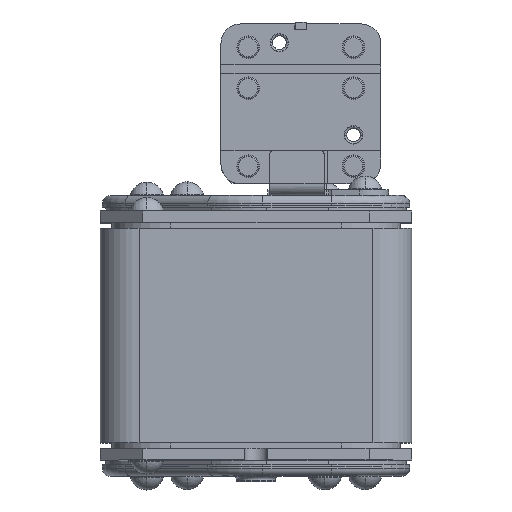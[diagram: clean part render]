
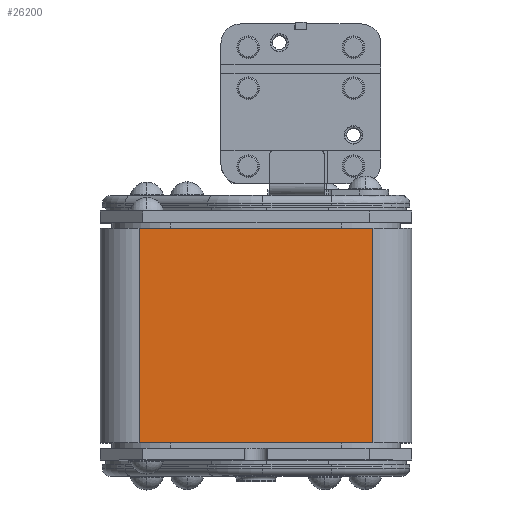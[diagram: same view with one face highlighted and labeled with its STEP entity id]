
A CAD part, top view. The second image highlights one B-rep face of the part: STEP entity #26200.
In plain terms, the highlighted planar face has unit normal (0, 0, 1).
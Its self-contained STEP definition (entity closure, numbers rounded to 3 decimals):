
#245 = AXIS2_PLACEMENT_3D ( 'NONE', #24988, #6865, #28010 ) ;
#767 = EDGE_CURVE ( 'NONE', #36830, #34968, #6697, .T. ) ;
#1786 = CARTESIAN_POINT ( 'NONE',  ( -30., -27.5, 40. ) ) ;
#2735 = ORIENTED_EDGE ( 'NONE', *, *, #767, .F. ) ;
#4666 = CARTESIAN_POINT ( 'NONE',  ( -30., 27.5, 40. ) ) ;
#5118 = DIRECTION ( 'NONE',  ( 0., -1., 0. ) ) ;
#6697 = LINE ( 'NONE', #30908, #12818 ) ;
#6865 = DIRECTION ( 'NONE',  ( 0., 0., -1. ) ) ;
#7473 = CARTESIAN_POINT ( 'NONE',  ( -30., -27.5, 40. ) ) ;
#9761 = PLANE ( 'NONE',  #245 ) ;
#12378 = LINE ( 'NONE', #29037, #18562 ) ;
#12818 = VECTOR ( 'NONE', #27940, 1000. ) ;
#15286 = EDGE_CURVE ( 'NONE', #34968, #28792, #19618, .T. ) ;
#15775 = EDGE_CURVE ( 'NONE', #36830, #39126, #12378, .T. ) ;
#16452 = ORIENTED_EDGE ( 'NONE', *, *, #22930, .T. ) ;
#16603 = DIRECTION ( 'NONE',  ( 0., -1., 0. ) ) ;
#18073 = VECTOR ( 'NONE', #26160, 1000. ) ;
#18562 = VECTOR ( 'NONE', #16603, 1000. ) ;
#19296 = CARTESIAN_POINT ( 'NONE',  ( 30., 27.5, 40. ) ) ;
#19618 = LINE ( 'NONE', #31667, #26720 ) ;
#19928 = LINE ( 'NONE', #1786, #18073 ) ;
#22930 = EDGE_CURVE ( 'NONE', #39126, #28792, #19928, .T. ) ;
#24988 = CARTESIAN_POINT ( 'NONE',  ( -30., 27.5, 40. ) ) ;
#26160 = DIRECTION ( 'NONE',  ( 1., 0., 0. ) ) ;
#26200 = ADVANCED_FACE ( 'NONE', ( #38709 ), #9761, .F. ) ;
#26720 = VECTOR ( 'NONE', #5118, 1000. ) ;
#27896 = CARTESIAN_POINT ( 'NONE',  ( 30., -27.5, 40. ) ) ;
#27940 = DIRECTION ( 'NONE',  ( 1., 0., 0. ) ) ;
#28010 = DIRECTION ( 'NONE',  ( -1., 0., 0. ) ) ;
#28277 = ORIENTED_EDGE ( 'NONE', *, *, #15286, .F. ) ;
#28792 = VERTEX_POINT ( 'NONE', #27896 ) ;
#29037 = CARTESIAN_POINT ( 'NONE',  ( -30., 27.5, 40. ) ) ;
#30381 = EDGE_LOOP ( 'NONE', ( #16452, #28277, #2735, #30939 ) ) ;
#30908 = CARTESIAN_POINT ( 'NONE',  ( -30., 27.5, 40. ) ) ;
#30939 = ORIENTED_EDGE ( 'NONE', *, *, #15775, .T. ) ;
#31667 = CARTESIAN_POINT ( 'NONE',  ( 30., 27.5, 40. ) ) ;
#34968 = VERTEX_POINT ( 'NONE', #19296 ) ;
#36830 = VERTEX_POINT ( 'NONE', #4666 ) ;
#38709 = FACE_OUTER_BOUND ( 'NONE', #30381, .T. ) ;
#39126 = VERTEX_POINT ( 'NONE', #7473 ) ;
